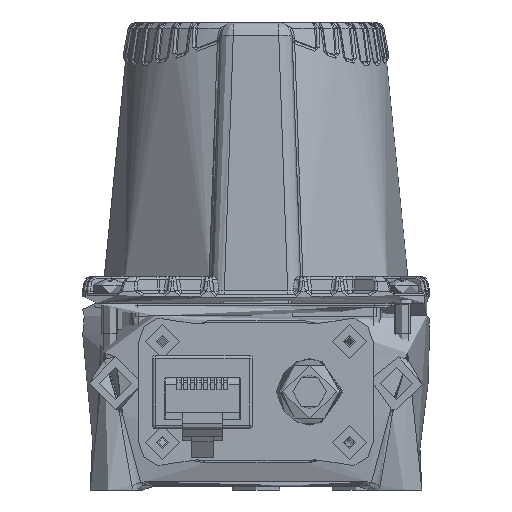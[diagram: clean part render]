
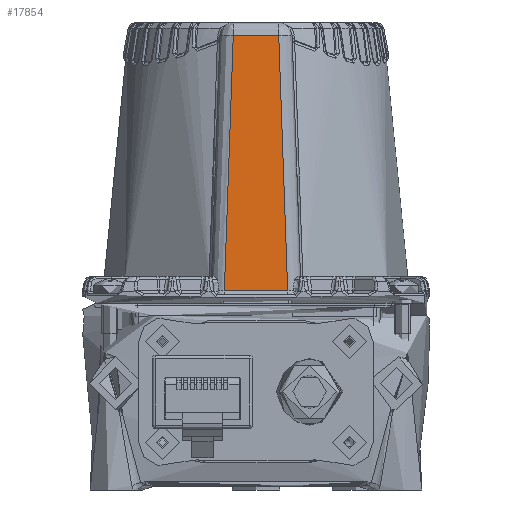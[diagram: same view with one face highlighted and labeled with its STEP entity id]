
A CAD part, front view. The second image highlights one B-rep face of the part: STEP entity #17854.
In plain terms, the highlighted planar face has unit normal (0, -0.999, 0.035).
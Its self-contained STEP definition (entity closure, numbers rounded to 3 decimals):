
#17854=ADVANCED_FACE('',(#26457),#21730,.F.);
#21730=PLANE('',#103727);
#26457=FACE_OUTER_BOUND('',#31894,.T.);
#31894=EDGE_LOOP('',(#57383,#57384,#57385,#57386));
#36222=LINE('',#145723,#42476);
#36226=LINE('',#145851,#42480);
#36228=LINE('',#145865,#42482);
#36234=LINE('',#145878,#42488);
#42476=VECTOR('',#109117,1.);
#42480=VECTOR('',#109147,1.);
#42482=VECTOR('',#109165,1.);
#42488=VECTOR('',#109181,1.);
#57383=ORIENTED_EDGE('',*,*,#86661,.T.);
#57384=ORIENTED_EDGE('',*,*,#86626,.T.);
#57385=ORIENTED_EDGE('',*,*,#86653,.T.);
#57386=ORIENTED_EDGE('',*,*,#86646,.T.);
#77186=VERTEX_POINT('',#145705);
#77188=VERTEX_POINT('',#145722);
#77197=VERTEX_POINT('',#145850);
#77198=VERTEX_POINT('',#145852);
#86626=EDGE_CURVE('',#77186,#77188,#36222,.T.);
#86646=EDGE_CURVE('',#77198,#77197,#36226,.T.);
#86653=EDGE_CURVE('',#77188,#77198,#36228,.T.);
#86661=EDGE_CURVE('',#77197,#77186,#36234,.T.);
#103727=AXIS2_PLACEMENT_3D('',#203943,#113138,#113139);
#109117=DIRECTION('',(1.,0.,0.));
#109147=DIRECTION('',(-1.,0.,0.));
#109165=DIRECTION('',(-0.035,0.034,0.999));
#109181=DIRECTION('',(-0.035,-0.034,-0.999));
#113138=DIRECTION('',(0.,0.999,-0.034));
#113139=DIRECTION('',(0.,-0.034,-0.999));
#145705=CARTESIAN_POINT('',(-4.741,-24.7,-24.882));
#145722=CARTESIAN_POINT('',(4.741,-24.7,-24.882));
#145723=CARTESIAN_POINT('',(4.758,-24.7,-24.882));
#145850=CARTESIAN_POINT('',(-3.405,-23.38,13.369));
#145851=CARTESIAN_POINT('',(0.,-23.38,13.369));
#145852=CARTESIAN_POINT('',(3.405,-23.38,13.369));
#145865=CARTESIAN_POINT('',(3.34,-23.316,15.23));
#145878=CARTESIAN_POINT('',(-4.659,-24.619,-22.536));
#203943=CARTESIAN_POINT('',(0.,-24.625,-22.698));
